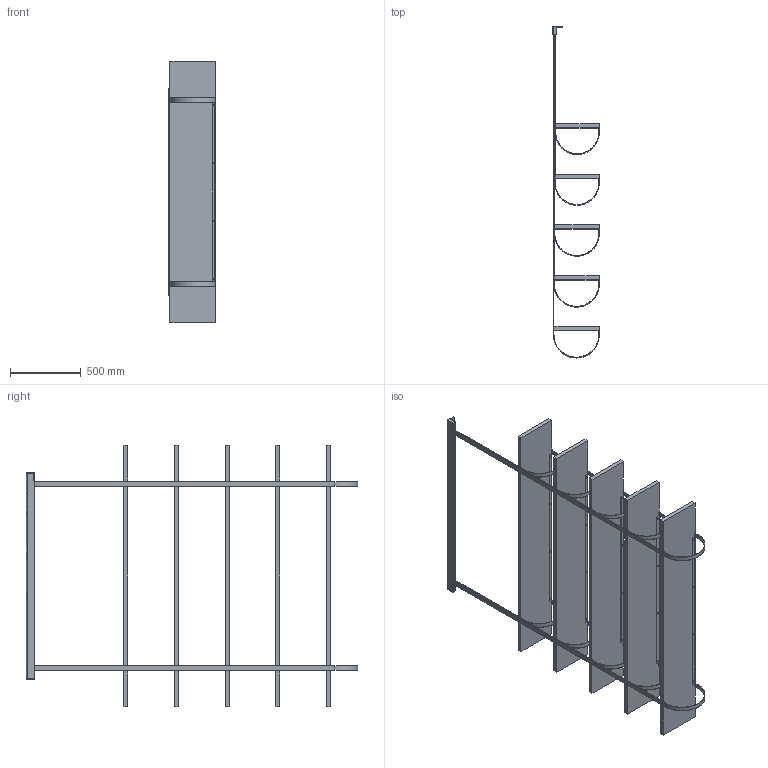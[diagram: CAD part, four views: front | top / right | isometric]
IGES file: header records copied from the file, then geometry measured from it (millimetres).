
Start section: SolidWorks IGES file using analytic representation for surfaces
Global section: file name: \\UTENTI\Dati Utenti\Tecnico\DC\2D - 3D per sito\3D\DeCastelli-3D-Talea 185.IGS; native system: SolidWorks 2022; preprocessor: SolidWorks 2022; author: Silviad; date: 240808.121002; units: millimetre
Bounding box: 334.75 x 2343.5 x 1850 mm (x, y, z)
Surface area: 8185804.5 mm2 (no closed solid volume)
Topology: 0 solids, 0 shells, 323 faces, 10624 edges, 10624 vertices
Faces by surface type: bspline 232, revolution 91
